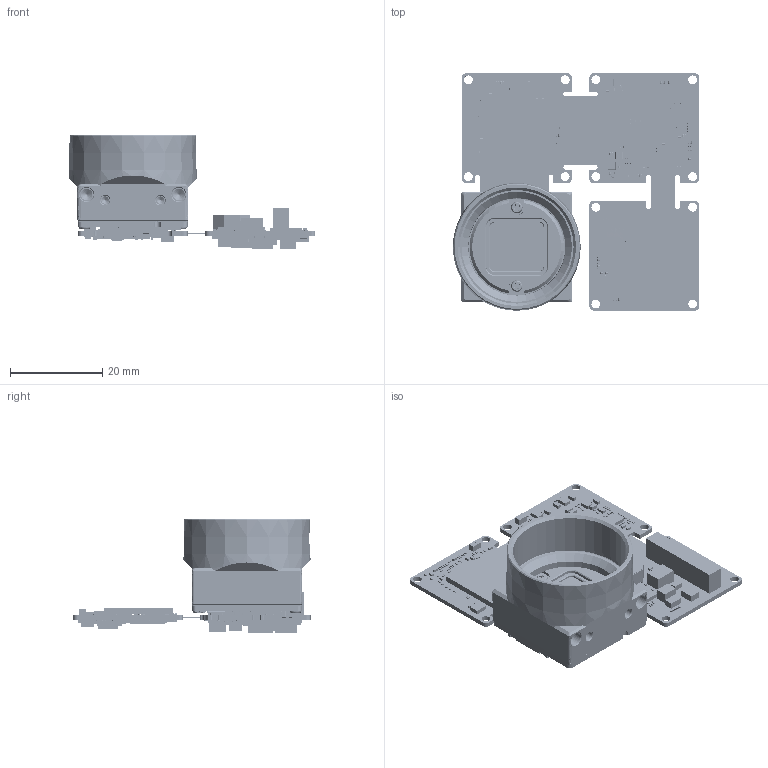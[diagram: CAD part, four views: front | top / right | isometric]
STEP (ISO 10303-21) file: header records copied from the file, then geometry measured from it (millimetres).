
FILE_DESCRIPTION (( 'STEP AP203' ), '1' );
FILE_NAME ('255-817-A.STEP', '2019-03-28T21:30:45', ( '' ), ( '' ), 'SwSTEP 2.0', 'SolidWorks 2017', '' );
FILE_SCHEMA (( 'CONFIG_CONTROL_DESIGN' ));
Products named in the file (1): 255-817-A
Bounding box: 53.41 x 51.49 x 24.88 mm (x, y, z)
Surface area: 15506.3 mm2 (no closed solid volume)
Topology: 0 solids, 653 shells, 21588 faces, 50316 edges, 26414 vertices
Faces by surface type: plane 9006, cylinder 8109, bspline 4307, cone 118, torus 46, sphere 2
Full cylindrical faces by diameter (mm): 0.099 x1, 0.177 x1, 0.206 x2, 1 x2, 1.05 x1, 1.1 x2, 1.2 x1, 1.35 x6, 1.6 x4, 1.7 x10, 1.8 x4, 1.9 x16, 2 x4, 2.5 x4, 3 x4, 24.64 x1, 25.5 x1
Entity records: 615149 total; most frequent: CARTESIAN_POINT 162113, DIRECTION 96086, ORIENTED_EDGE 91764, EDGE_CURVE 45884, AXIS2_PLACEMENT_3D 33524, VECTOR 29038, LINE 29038, VERTEX_POINT 26366
